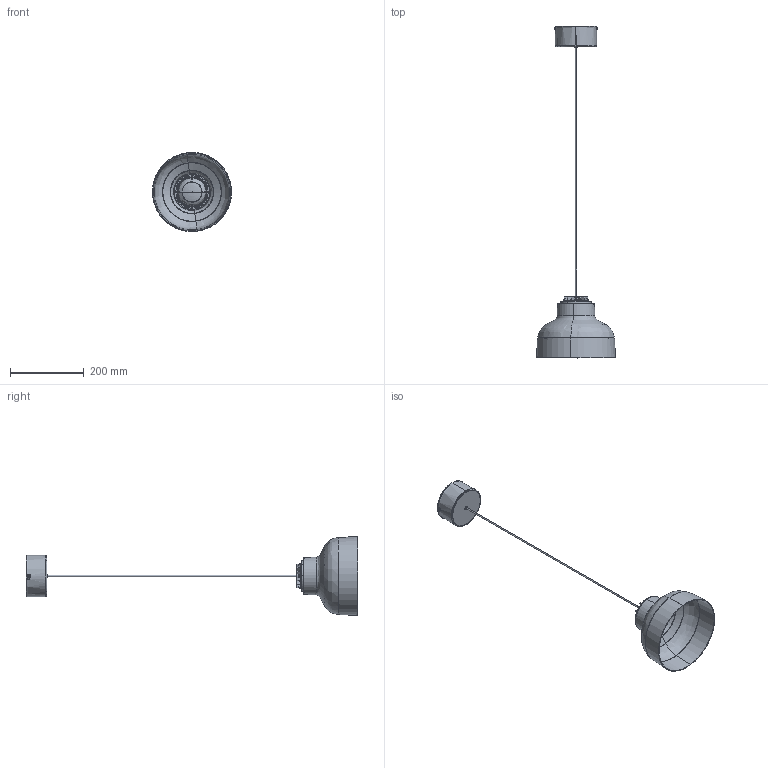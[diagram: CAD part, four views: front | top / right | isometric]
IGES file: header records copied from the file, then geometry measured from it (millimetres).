
Start section: SolidWorks IGES file using analytic representation for surfaces
Global section: file name: C:\SANTACOLE_PDM\Proyectos Catálogo\PROD-P13-003 -- CÁPSULA HEAD LED\6_Técnico comercial\3D\M64\M64.IGS; native system: SolidWorks 2019; preprocessor: SolidWorks 2019; author: aina.morell; date: 200406.171827; units: millimetre
Bounding box: 214.88 x 902.49 x 214.88 mm (x, y, z)
Surface area: 319951 mm2 (no closed solid volume)
Topology: 0 solids, 0 shells, 617 faces, 7773 edges, 7762 vertices
Faces by surface type: bspline 455, revolution 162
